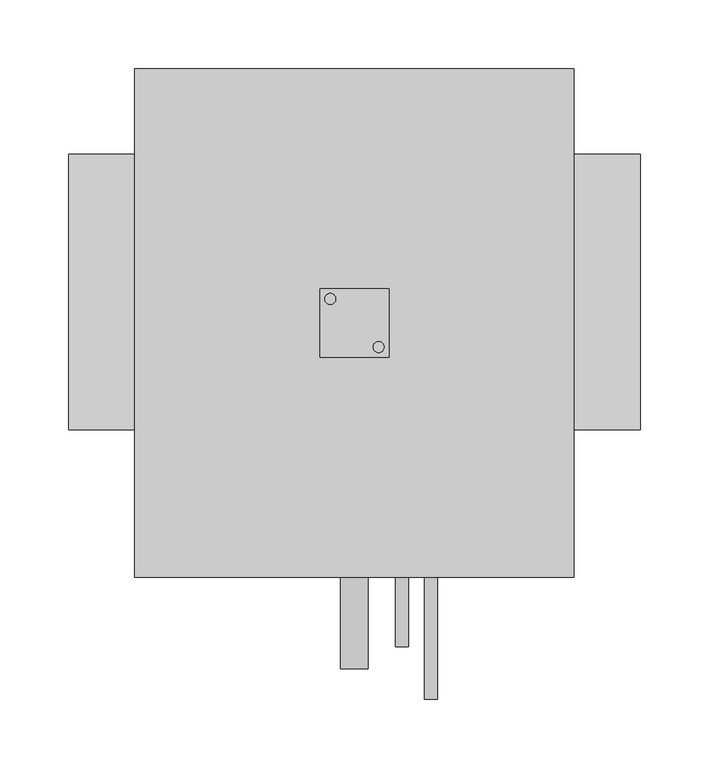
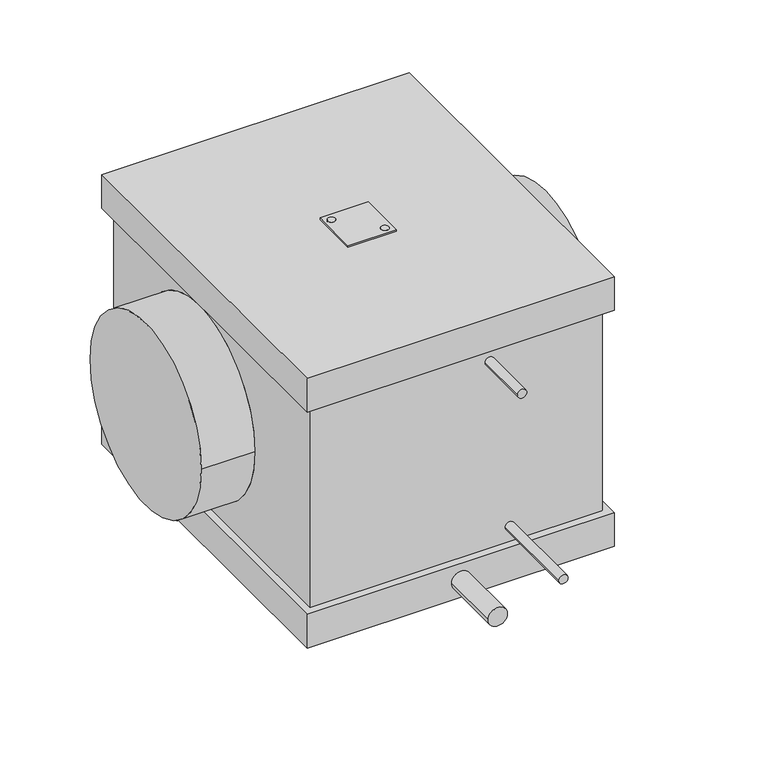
"""IFC4 building model written with IfcOpenShell, lengths in millimetres: proxy geometry, KORF_Охладитель_Фреоновый_Круглый_Левый_KFLO : KFLO 200/2."""

from ifc_helpers import new_model, si_unit, point, frame, frame_2d, origin, place, context, project, spatial, polyline, circle_curve, trimmed, segment, composite_curve, outline, extrude, source, transform, mapped, element, save
from ifc_brep_helpers import plane_surface, cylinder_surface, advanced_brep


def mechanical_equipment_0aa083f5(model_context):
    return source(origin(), model_context, "Body", "SolidModel", [
        extrude(outline(composite_curve([segment(trimmed(circle_curve(frame_2d((189.9272934, -4.9254254)), 4.0), [point((185.9272934, -4.9254254))], [point((193.9272934, -4.9254254))], False, "CARTESIAN"), True, "CONTINUOUS"), segment(trimmed(circle_curve(frame_2d((189.9272934, -4.9254254)), 4.0), [point((193.9272934, -4.9254254))], [point((185.9272934, -4.9254254))], False, "CARTESIAN"), True, "CONTINUOUS")], self_intersect=False)), frame((0.0, 0.0, 148.0), z_axis=(0.0, 0.0, 1.0), x_axis=(1.0, 0.0, 0.0)), (0.0, 0.0, 1.0), 2.0),
        extrude(outline(composite_curve([segment(trimmed(circle_curve(frame_2d((225.0727066, -40.0745746)), 4.0), [point((229.0727066, -40.0745746))], [point((221.0727066, -40.0745746))], False, "CARTESIAN"), True, "CONTINUOUS"), segment(trimmed(circle_curve(frame_2d((225.0727066, -40.0745746)), 4.0), [point((221.0727066, -40.0745746))], [point((229.0727066, -40.0745746))], False, "CARTESIAN"), True, "CONTINUOUS")], self_intersect=False)), frame((0.0, 0.0, 148.0), z_axis=(0.0, 0.0, 1.0), x_axis=(1.0, 0.0, 0.0)), (0.0, 0.0, 1.0), 2.0),
        extrude(outline(polyline([(232.5, 2.5), (232.5, -47.5), (182.5, -47.5), (182.5, 2.5), (232.5, 2.5)]), holes=[composite_curve([segment(trimmed(circle_curve(frame_2d((189.9272934, -4.9254254)), 4.0), [point((185.9272934, -4.9254254))], [point((193.9272934, -4.9254254))], True, "CARTESIAN"), True, "CONTINUOUS"), segment(trimmed(circle_curve(frame_2d((189.9272934, -4.9254254)), 4.0), [point((193.9272934, -4.9254254))], [point((185.9272934, -4.9254254))], True, "CARTESIAN"), True, "CONTINUOUS")], self_intersect=False), composite_curve([segment(trimmed(circle_curve(frame_2d((225.0727066, -40.0745746)), 4.0), [point((229.0727066, -40.0745746))], [point((221.0727066, -40.0745746))], True, "CARTESIAN"), True, "CONTINUOUS"), segment(trimmed(circle_curve(frame_2d((225.0727066, -40.0745746)), 4.0), [point((221.0727066, -40.0745746))], [point((229.0727066, -40.0745746))], True, "CARTESIAN"), True, "CONTINUOUS")], self_intersect=False)]), frame((0.0, 0.0, 148.0), z_axis=(0.0, 0.0, 1.0), x_axis=(1.0, 0.0, 0.0)), (0.0, 0.0, 1.0), 2.0),
        advanced_brep(
        [(415.0, -100.0, 0.0), (415.0, 100.0, 0.0), (0.0, -100.0, 0.0), (0.0, 100.0, 0.0), (359.5, -100.0, 0.0), (359.5, 100.0, 0.0), (55.5, 100.0, 0.0), (55.5, -100.0, 0.0), (359.5, -198.5, -111.0), (359.5, 153.5, -111.0), (359.5, 153.5, 111.0), (359.5, -198.5, 111.0), (55.5, 153.5, -111.0), (55.5, -198.5, -111.0), (55.5, -198.5, 111.0), (55.5, 153.5, 111.0), (358.5, -198.5, -111.0), (358.5, -198.5, 111.0), (56.5, -198.5, 111.0), (56.5, -198.5, -111.0), (367.0, 162.0, -148.0), (367.0, -207.0, -148.0), (48.0, -207.0, -148.0), (48.0, 162.0, -148.0), (358.5, 153.5, -111.0), (56.5, 153.5, -111.0), (56.5, 153.5, 111.0), (358.5, 153.5, 111.0), (367.0, -207.0, 148.0), (367.0, 162.0, 148.0), (48.0, 162.0, 148.0), (48.0, -207.0, 148.0), (367.0, 162.0, -111.0), (367.0, -207.0, -111.0), (48.0, -207.0, -111.0), (48.0, 162.0, -111.0), (367.0, 162.0, 111.0), (367.0, -207.0, 111.0), (48.0, -207.0, 111.0), (48.0, 162.0, 111.0)],
        [
            (0, 1, circle_curve(frame((415.0, 0.0, 0.0), z_axis=(1.0, 0.0, 0.0), x_axis=(0.0, 1.0, 0.0)), 100.0)),
            (1, 0, circle_curve(frame((415.0, 0.0, 0.0), z_axis=(1.0, 0.0, 0.0), x_axis=(0.0, 1.0, 0.0)), 100.0)),
            (2, 3, circle_curve(frame((0.0, 0.0, 0.0), z_axis=(-1.0, 0.0, 0.0), x_axis=(0.0, 1.0, 0.0)), 100.0)),
            (3, 2, circle_curve(frame((0.0, 0.0, 0.0), z_axis=(-1.0, 0.0, 0.0), x_axis=(0.0, 1.0, 0.0)), 100.0)),
            (0, 4),
            (4, 5, circle_curve(frame((359.5, 0.0, 0.0), z_axis=(1.0, 0.0, 0.0), x_axis=(0.0, 1.0, 0.0)), 100.0)),
            (5, 1),
            (3, 6),
            (6, 7, circle_curve(frame((55.5, 0.0, 0.0), z_axis=(-1.0, 0.0, 0.0), x_axis=(0.0, 1.0, 0.0)), 100.0)),
            (7, 2),
            (5, 4, circle_curve(frame((359.5, 0.0, 0.0), z_axis=(1.0, 0.0, 0.0), x_axis=(0.0, 1.0, 0.0)), 100.0)),
            (7, 6, circle_curve(frame((55.5, 0.0, 0.0), z_axis=(-1.0, 0.0, 0.0), x_axis=(0.0, 1.0, 0.0)), 100.0)),
            (8, 9),
            (9, 10),
            (10, 11),
            (11, 8),
            (12, 13),
            (13, 14),
            (14, 15),
            (15, 12),
            (16, 8),
            (11, 17),
            (17, 18),
            (18, 14),
            (13, 19),
            (19, 16),
            (20, 21),
            (21, 22),
            (22, 23),
            (23, 20),
            (9, 24),
            (24, 25),
            (25, 12),
            (15, 26),
            (26, 27),
            (27, 10),
            (28, 29),
            (29, 30),
            (30, 31),
            (31, 28),
            (20, 32),
            (32, 33),
            (33, 21),
            (33, 34),
            (34, 22),
            (34, 35),
            (35, 23),
            (32, 35),
            (36, 29),
            (28, 37),
            (37, 36),
            (31, 38),
            (38, 37),
            (30, 39),
            (39, 38),
            (36, 39),
        ],
        [
            plane_surface(frame((415.0, 100.0, 0.0), z_axis=(1.0, 0.0, 0.0), x_axis=(0.0, 0.0, 1.0))),
            plane_surface(frame((0.0, 100.0, 0.0), z_axis=(-1.0, 0.0, 0.0), x_axis=(0.0, 0.0, -1.0))),
            cylinder_surface(frame((0.0, 0.0, 0.0), z_axis=(1.0, 0.0, 0.0), x_axis=(0.0, 1.0, 0.0)), 100.0),
            plane_surface(frame((359.5, -198.5, 148.0), z_axis=(1.0, 0.0, 0.0), x_axis=(0.0, 0.0, -1.0))),
            plane_surface(frame((55.5, -198.5, 148.0), z_axis=(-1.0, 0.0, 0.0), x_axis=(0.0, 0.0, 1.0))),
            plane_surface(frame((359.5, -198.5, 148.0), z_axis=(0.0, -1.0, 0.0), x_axis=(-1.0, 0.0, 0.0))),
            plane_surface(frame((359.5, -198.5, -148.0), z_axis=(0.0, 0.0, -1.0), x_axis=(-1.0, 0.0, 0.0))),
            plane_surface(frame((359.5, 153.5, -148.0), z_axis=(0.0, 1.0, 0.0), x_axis=(-1.0, 0.0, 0.0))),
            plane_surface(frame((359.5, 153.5, 148.0), z_axis=(0.0, 0.0, 1.0), x_axis=(-1.0, 0.0, 0.0))),
            plane_surface(frame((367.0, 162.0, -111.0), z_axis=(1.0, 0.0, 0.0), x_axis=(0.0, -1.0, 0.0))),
            plane_surface(frame((367.0, -207.0, -111.0), z_axis=(0.0, -1.0, 0.0), x_axis=(-1.0, 0.0, 0.0))),
            plane_surface(frame((48.0, -207.0, -111.0), z_axis=(-1.0, 0.0, 0.0), x_axis=(0.0, 1.0, 0.0))),
            plane_surface(frame((56.5, 153.5, -111.0), z_axis=(0.0, 0.0, 1.0), x_axis=(1.0, 0.0, 0.0))),
            plane_surface(frame((48.0, 162.0, -111.0), z_axis=(0.0, 1.0, 0.0), x_axis=(1.0, 0.0, 0.0))),
            plane_surface(frame((367.0, 162.0, 148.0), z_axis=(1.0, 0.0, 0.0), x_axis=(0.0, -1.0, 0.0))),
            plane_surface(frame((367.0, -207.0, 148.0), z_axis=(0.0, -1.0, 0.0), x_axis=(-1.0, 0.0, 0.0))),
            plane_surface(frame((48.0, -207.0, 148.0), z_axis=(-1.0, 0.0, 0.0), x_axis=(0.0, 1.0, 0.0))),
            plane_surface(frame((48.0, 162.0, 148.0), z_axis=(0.0, 1.0, 0.0), x_axis=(1.0, 0.0, 0.0))),
            plane_surface(frame((48.0, 162.0, 111.0), z_axis=(0.0, 0.0, -1.0), x_axis=(1.0, 0.0, 0.0))),
        ],
        [
            (0, [[1, 2]]),
            (1, [[3, 4]]),
            (2, [[-1, 5, 6, 7]]),
            (2, [[-4, 8, 9, 10]]),
            (2, [[-2, -7, 11, -5]]),
            (2, [[-3, -10, 12, -8]]),
            (3, [[13, 14, 15, 16], [-6, -11]]),
            (4, [[17, 18, 19, 20], [-9, -12]]),
            (5, [[21, -16, 22, 23, 24, -18, 25, 26]]),
            (6, [[27, 28, 29, 30]]),
            (7, [[31, 32, 33, -20, 34, 35, 36, -14]]),
            (8, [[37, 38, 39, 40]]),
            (9, [[41, 42, 43, -27]]),
            (10, [[-43, 44, 45, -28]]),
            (11, [[-45, 46, 47, -29]]),
            (12, [[-42, 48, -46, -44], [-13, -21, -26, -25, -17, -33, -32, -31]]),
            (13, [[-41, -30, -47, -48]]),
            (14, [[49, -37, 50, 51]]),
            (15, [[-50, -40, 52, 53]]),
            (16, [[-52, -39, 54, 55]]),
            (17, [[-49, 56, -54, -38]]),
            (18, [[-51, -53, -55, -56], [-15, -36, -35, -34, -19, -24, -23, -22]]),
        ],
    ),
        extrude(outline(composite_curve([segment(trimmed(circle_curve(frame_2d((-94.0, 263.0)), 4.76), [point((-94.0, 258.24))], [point((-94.0, 267.76))], False, "CARTESIAN"), True, "CONTINUOUS"), segment(trimmed(circle_curve(frame_2d((-94.0, 263.0)), 4.76), [point((-94.0, 267.76))], [point((-94.0, 258.24))], False, "CARTESIAN"), True, "CONTINUOUS")], self_intersect=False)), frame((0.0, -295.5, 0.0), z_axis=(0.0, 1.0, 0.0), x_axis=(0.0, 0.0, 1.0)), (0.0, 0.0, 1.0), 97.0),
        extrude(outline(composite_curve([segment(trimmed(circle_curve(frame_2d((94.0, 242.0)), 4.76), [point((94.0, 237.24))], [point((94.0, 246.76))], False, "CARTESIAN"), True, "CONTINUOUS"), segment(trimmed(circle_curve(frame_2d((94.0, 242.0)), 4.76), [point((94.0, 246.76))], [point((94.0, 237.24))], False, "CARTESIAN"), True, "CONTINUOUS")], self_intersect=False)), frame((0.0, -257.5, 0.0), z_axis=(0.0, 1.0, 0.0), x_axis=(0.0, 0.0, 1.0)), (0.0, 0.0, 1.0), 59.0),
        extrude(outline(composite_curve([segment(trimmed(circle_curve(frame_2d((-129.0, 207.5)), 10.0), [point((-129.0, 197.5))], [point((-129.0, 217.5))], False, "CARTESIAN"), True, "CONTINUOUS"), segment(trimmed(circle_curve(frame_2d((-129.0, 207.5)), 10.0), [point((-129.0, 217.5))], [point((-129.0, 197.5))], False, "CARTESIAN"), True, "CONTINUOUS")], self_intersect=False)), frame((0.0, -273.5, 0.0), z_axis=(0.0, 1.0, 0.0), x_axis=(0.0, 0.0, 1.0)), (0.0, 0.0, 1.0), 66.5),
    ])


if __name__ == "__main__":
    model = new_model("IFC4")
    model_context = context("Model", 3, world=origin())
    ifc_project = project(units=[si_unit("LENGTHUNIT", "METRE", prefix="MILLI")], contexts=[model_context])
    site = spatial("IfcSite", under=ifc_project)
    building = spatial("IfcBuilding", under=site)
    placement = place(None, origin())
    mechanical_equipment_shape = mechanical_equipment_0aa083f5(model_context)
    element("IfcBuildingElementProxy", 1, Name="KORF_Охладитель_Фреоновый_Круглый_Левый_KFLO : KFLO 200/2", ObjectType="KORF_Охладитель_Фреоновый_Круглый_Левый_KFLO : KFLO 200/2", at=placement, inside=building, context=model_context, shape_type="MappedRepresentation", body=[
        mapped(mechanical_equipment_shape, transform((0.0, 0.0, 0.0), x_axis=(1.0, 0.0, 0.0), y_axis=(0.0, 1.0, 0.0), z_axis=(0.0, 0.0, 1.0))),
    ])
    save(model, "model.ifc")
